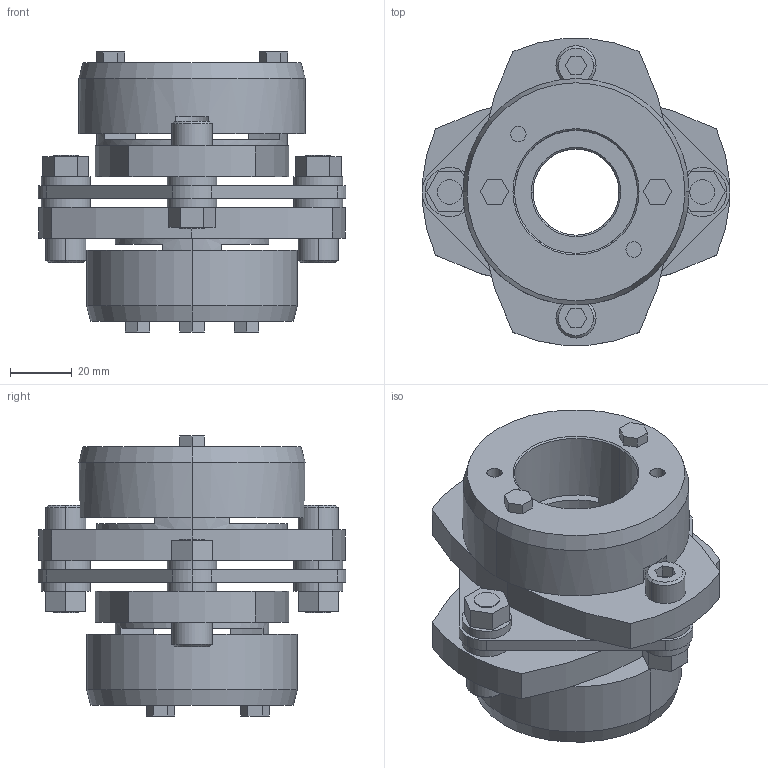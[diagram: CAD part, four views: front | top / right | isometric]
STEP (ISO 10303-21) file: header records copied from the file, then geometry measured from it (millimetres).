
FILE_DESCRIPTION((''),'2;1');
FILE_NAME('LCS-100T7-28×40.stp','2015-11-02T07:51:29',(''),(''),'AutoCAD STEP 2000i','AutoCAD 2000i',', , ');
FILE_SCHEMA(('CONFIG_CONTROL_DESIGN'));
Length unit declared in the file: millimetre
Products named in the file (11): LCS-100T7-28×38; 忣兜1; LC100T7-T028-1; LC100T7-T038; LC100T7-T035; LC100T7-T030; LC100T7-T025-1; LC100T7-T025; LC100T7-T022-1; LC100T7-T022; LCS100-ITA
Assembly tree (10 placements, depth 2):
  LCS-100T7-28×38
    忣兜1
    LC100T7-T028-1
    LC100T7-T038
    LC100T7-T035
    LC100T7-T030
    LC100T7-T025-1
    LC100T7-T025
    LC100T7-T022-1
    LC100T7-T022
    LCS100-ITA
Bounding box: 100 x 99.93 x 91 mm (x, y, z)
Volume: 263873.4 mm3; surface area: 65452.1 mm2
Topology: 1 solids, 1 shells, 229 faces, 562 edges, 368 vertices
Faces by surface type: plane 127, cylinder 82, cone 20
Entity records: 7051 total; most frequent: DIRECTION 1246, CARTESIAN_POINT 1170, ORIENTED_EDGE 1124, EDGE_CURVE 562, AXIS2_PLACEMENT_3D 444, VERTEX_POINT 368, VECTOR 358, LINE 358
